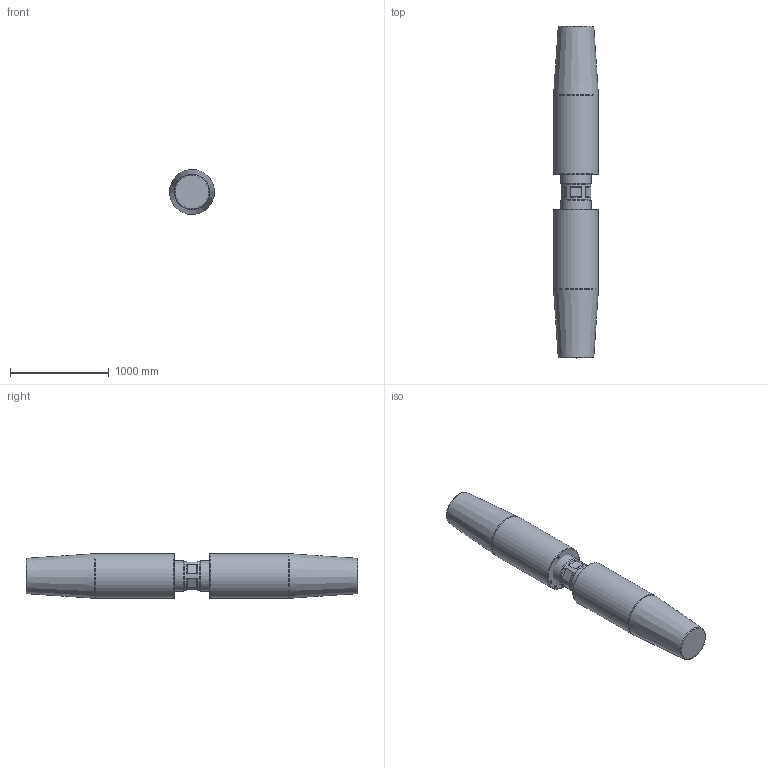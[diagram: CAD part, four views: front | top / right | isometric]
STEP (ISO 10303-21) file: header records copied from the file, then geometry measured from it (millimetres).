
FILE_DESCRIPTION(/* description */ (''),/* implementation_level */ '2;1');
FILE_NAME(/* name */ 'D:\Clienti\Redaelli (inventor)\CYA\STEP\Arrangement\CYA156 52 061 2.stp',/* time_stamp */ '2021-05-09T10:53:19+02:00',/* author */ ('fabri'),/* organization */ (''),/* preprocessor_version */ 'ST-DEVELOPER v16.13',/* originating_system */ 'Autodesk Inventor 2018',/* authorisation */ '');
FILE_SCHEMA (('AUTOMOTIVE_DESIGN { 1 0 10303 214 3 1 1 }'));
Length unit declared in the file: millimetre
Products named in the file (4): CYA012-54-062-0; TBF012-12-012-1; TBF012-13-012-0; TBF012-13-012-0_1
Assembly tree (3 placements, depth 2):
  CYA012-54-062-0
    TBF012-12-012-1
    TBF012-13-012-0
    TBF012-13-012-0_1
Bounding box: 454.71 x 3361 x 454.71 mm (x, y, z)
Volume: 551189025.6 mm3; surface area: 6179353.9 mm2
Topology: 3 solids, 3 shells, 517 faces, 1386 edges, 918 vertices
Faces by surface type: bspline 255, plane 219, cylinder 25, cone 14, torus 4
Full cylindrical faces by diameter (mm): 17.294 x2, 23.752 x6, 302.5 x1, 310 x2, 455 x2
Entity records: 17716 total; most frequent: CARTESIAN_POINT 6576, ORIENTED_EDGE 2694, DIRECTION 1405, EDGE_CURVE 1347, VERTEX_POINT 910, LINE 787, VECTOR 787, EDGE_LOOP 591
